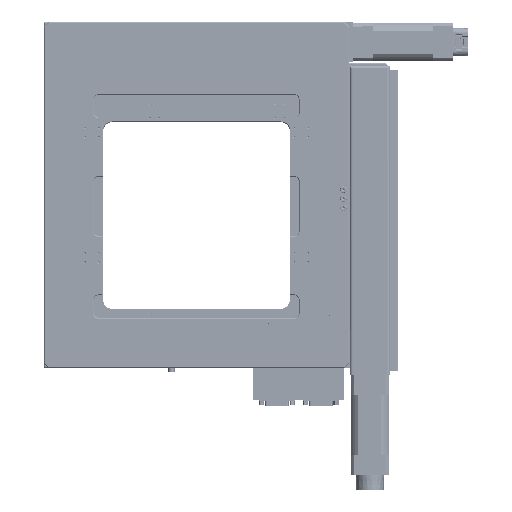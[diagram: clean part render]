
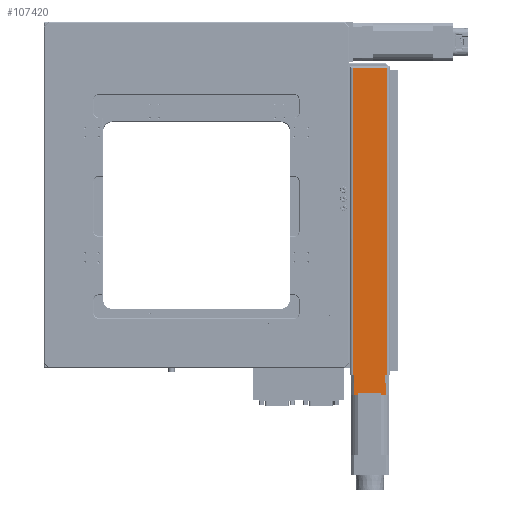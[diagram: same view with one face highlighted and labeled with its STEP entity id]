
A CAD part, top view. The second image highlights one B-rep face of the part: STEP entity #107420.
In plain terms, the highlighted planar face has unit normal (0, 0, 1).
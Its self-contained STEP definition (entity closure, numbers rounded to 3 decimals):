
#2560=LINE($,#151333,#11135);
#2561=LINE($,#151337,#11136);
#2564=LINE($,#151352,#11139);
#5169=LINE($,#182616,#13744);
#5173=LINE($,#182628,#13748);
#5218=LINE($,#182865,#13793);
#5219=LINE($,#182866,#13794);
#5223=LINE($,#182872,#13798);
#5224=LINE($,#182875,#13799);
#5229=LINE($,#182890,#13804);
#5230=LINE($,#182892,#13805);
#5237=LINE($,#182905,#13812);
#5325=LINE($,#183263,#13900);
#5329=LINE($,#183270,#13904);
#5338=LINE($,#183287,#13913);
#5339=LINE($,#183349,#13914);
#11135=VECTOR($,#122514,2.);
#11136=VECTOR($,#122519,337.);
#11139=VECTOR($,#122532,337.);
#13744=VECTOR($,#130897,0.755);
#13748=VECTOR($,#130907,0.755);
#13793=VECTOR($,#131068,25.239);
#13794=VECTOR($,#131069,2.25);
#13798=VECTOR($,#131073,2.25);
#13799=VECTOR($,#131076,5.136);
#13804=VECTOR($,#131091,5.136);
#13805=VECTOR($,#131094,12.8);
#13812=VECTOR($,#131109,12.8);
#13900=VECTOR($,#131417,9.);
#13904=VECTOR($,#131423,9.);
#13913=VECTOR($,#131442,2.);
#13914=VECTOR($,#131523,38.);
#21356=PLANE($,#115156);
#28684=FACE_OUTER_BOUND($,#35535,.T.);
#35535=EDGE_LOOP($,(#80116,#80117,#80118,#80119,#80120,#80121,#80122,#80123,
#80124,#80125,#80126,#80127,#80128,#80129,#80130,#80131));
#45012=VERTEX_POINT($,#151330);
#45013=VERTEX_POINT($,#151332);
#45014=VERTEX_POINT($,#151336);
#45020=VERTEX_POINT($,#151349);
#45021=VERTEX_POINT($,#151351);
#48287=VERTEX_POINT($,#182612);
#48289=VERTEX_POINT($,#182615);
#48292=VERTEX_POINT($,#182622);
#48294=VERTEX_POINT($,#182626);
#48348=VERTEX_POINT($,#182822);
#48362=VERTEX_POINT($,#182859);
#48363=VERTEX_POINT($,#182863);
#48364=VERTEX_POINT($,#182864);
#48367=VERTEX_POINT($,#182874);
#48372=VERTEX_POINT($,#182888);
#48472=VERTEX_POINT($,#183268);
#54803=EDGE_CURVE($,#45013,#45012,#2560,.T.);
#54805=EDGE_CURVE($,#45013,#45014,#2561,.T.);
#54812=EDGE_CURVE($,#45021,#45020,#2564,.T.);
#59662=EDGE_CURVE($,#48289,#48287,#5169,.T.);
#59668=EDGE_CURVE($,#48292,#48294,#5173,.T.);
#59755=EDGE_CURVE($,#48363,#48364,#5218,.T.);
#59756=EDGE_CURVE($,#48362,#48363,#5219,.T.);
#59760=EDGE_CURVE($,#48364,#48348,#5223,.T.);
#59761=EDGE_CURVE($,#48362,#48367,#5224,.T.);
#59769=EDGE_CURVE($,#48372,#48348,#5229,.T.);
#59770=EDGE_CURVE($,#48289,#48372,#5230,.T.);
#59778=EDGE_CURVE($,#48294,#48367,#5237,.T.);
#59921=EDGE_CURVE($,#48292,#45012,#5325,.T.);
#59925=EDGE_CURVE($,#48472,#48287,#5329,.T.);
#59934=EDGE_CURVE($,#48472,#45021,#5338,.T.);
#59956=EDGE_CURVE($,#45014,#45020,#5339,.T.);
#80116=ORIENTED_EDGE($,*,*,#59921,.F.);
#80117=ORIENTED_EDGE($,*,*,#59668,.T.);
#80118=ORIENTED_EDGE($,*,*,#59778,.T.);
#80119=ORIENTED_EDGE($,*,*,#59761,.F.);
#80120=ORIENTED_EDGE($,*,*,#59756,.T.);
#80121=ORIENTED_EDGE($,*,*,#59755,.T.);
#80122=ORIENTED_EDGE($,*,*,#59760,.T.);
#80123=ORIENTED_EDGE($,*,*,#59769,.F.);
#80124=ORIENTED_EDGE($,*,*,#59770,.F.);
#80125=ORIENTED_EDGE($,*,*,#59662,.T.);
#80126=ORIENTED_EDGE($,*,*,#59925,.F.);
#80127=ORIENTED_EDGE($,*,*,#59934,.T.);
#80128=ORIENTED_EDGE($,*,*,#54812,.T.);
#80129=ORIENTED_EDGE($,*,*,#59956,.F.);
#80130=ORIENTED_EDGE($,*,*,#54805,.F.);
#80131=ORIENTED_EDGE($,*,*,#54803,.T.);
#107420=ADVANCED_FACE($,(#28684),#21356,.T.);
#115156=AXIS2_PLACEMENT_3D($,#184279,#132407,#132408);
#122514=DIRECTION($,(1.,0.,0.));
#122519=DIRECTION($,(0.,1.,0.));
#122532=DIRECTION($,(0.,1.,0.));
#130897=DIRECTION($,(-1.,0.,0.));
#130907=DIRECTION($,(-1.,0.,0.));
#131068=DIRECTION($,(1.,0.,0.));
#131069=DIRECTION($,(0.,1.,0.));
#131073=DIRECTION($,(0.,-1.,0.));
#131076=DIRECTION($,(-1.,0.,0.));
#131091=DIRECTION($,(-1.,0.,0.));
#131094=DIRECTION($,(0.,-1.,0.));
#131109=DIRECTION($,(0.,-1.,0.));
#131417=DIRECTION($,(0.,1.,0.));
#131423=DIRECTION($,(0.,-1.,0.));
#131442=DIRECTION($,(1.,0.,0.));
#131523=DIRECTION($,(1.,0.,0.));
#132407=DIRECTION('center_axis',(0.,0.,
1.));
#132408=DIRECTION('ref_axis',(1.,0.,0.));
#151330=CARTESIAN_POINT('',(341.,-748.368,42.));
#151332=CARTESIAN_POINT('',(339.,-748.368,42.));
#151333=CARTESIAN_POINT($,(336.,-748.368,42.));
#151336=CARTESIAN_POINT('',(339.,-411.368,42.));
#151337=CARTESIAN_POINT($,(339.,-748.368,42.));
#151349=CARTESIAN_POINT('',(377.,-411.368,42.));
#151351=CARTESIAN_POINT('',(377.,-748.368,42.));
#151352=CARTESIAN_POINT($,(377.,-578.368,42.));
#182612=CARTESIAN_POINT('',(375.,-757.368,42.));
#182615=CARTESIAN_POINT('',(375.755,-757.368,42.));
#182616=CARTESIAN_POINT($,(375.755,-757.368,42.));
#182622=CARTESIAN_POINT('',(341.,-757.368,42.));
#182626=CARTESIAN_POINT('',(340.245,-757.368,42.));
#182628=CARTESIAN_POINT($,(375.755,-757.368,42.));
#182822=CARTESIAN_POINT('',(370.619,-770.168,42.));
#182859=CARTESIAN_POINT('',(345.381,-770.168,42.));
#182863=CARTESIAN_POINT('',(345.381,-767.918,42.));
#182864=CARTESIAN_POINT('',(370.619,-767.918,42.));
#182865=CARTESIAN_POINT($,(358.,-767.918,42.));
#182866=CARTESIAN_POINT($,(345.381,-770.168,42.));
#182872=CARTESIAN_POINT($,(370.619,-770.168,42.));
#182874=CARTESIAN_POINT('',(340.245,-770.168,42.));
#182875=CARTESIAN_POINT($,(375.755,-770.168,42.));
#182888=CARTESIAN_POINT('',(375.755,-770.168,42.));
#182890=CARTESIAN_POINT($,(375.755,-770.168,42.));
#182892=CARTESIAN_POINT($,(375.755,-757.368,42.));
#182905=CARTESIAN_POINT($,(340.245,-757.368,42.));
#183263=CARTESIAN_POINT($,(341.,-748.368,42.));
#183268=CARTESIAN_POINT('',(375.,-748.368,42.));
#183270=CARTESIAN_POINT($,(375.,-748.368,42.));
#183287=CARTESIAN_POINT($,(336.,-748.368,42.));
#183349=CARTESIAN_POINT($,(369.,-411.368,42.));
#184279=CARTESIAN_POINT('Origin',(336.,-748.368,42.));
